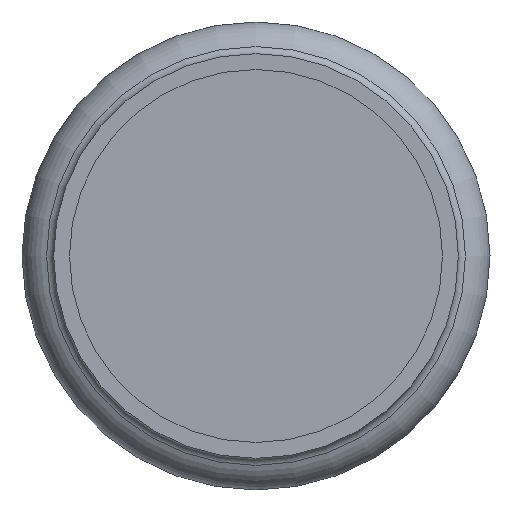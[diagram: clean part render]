
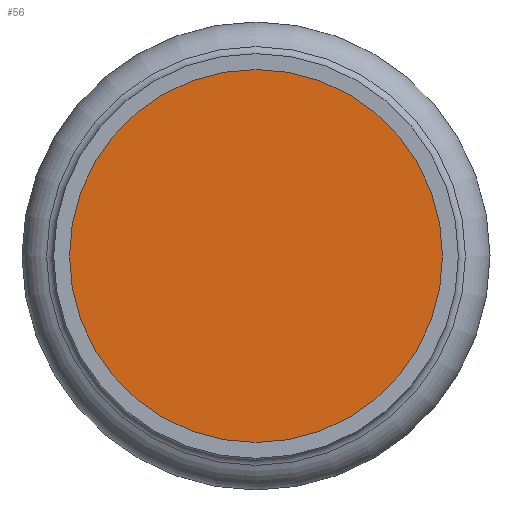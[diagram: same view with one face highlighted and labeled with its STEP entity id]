
A CAD part, front view. The second image highlights one B-rep face of the part: STEP entity #56.
In plain terms, the highlighted planar face has unit normal (0, -1, 0).
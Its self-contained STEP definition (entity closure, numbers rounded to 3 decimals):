
#56=ADVANCED_FACE('',(#97),#99,.T.);
#97=FACE_BOUND('',#98,.T.);
#98=EDGE_LOOP('',(#244));
#99=PLANE('',#100);
#100=AXIS2_PLACEMENT_3D('',#101,#102,#103);
#101=CARTESIAN_POINT('',(0.,-29.743,0.));
#102=DIRECTION('',(0.,-1.,0.));
#103=DIRECTION('',(0.,0.,-1.));
#244=ORIENTED_EDGE('',*,*,#277,.T.);
#277=EDGE_CURVE('',#297,#297,#298,.F.);
#297=VERTEX_POINT('',#339);
#298=CIRCLE('',#340,17.65);
#339=CARTESIAN_POINT('',(0.,-29.743,17.65));
#340=AXIS2_PLACEMENT_3D('',#341,#342,#343);
#341=CARTESIAN_POINT('',(0.,-29.743,0.));
#342=DIRECTION('',(0.,1.,0.));
#343=DIRECTION('',(0.,0.,1.));
